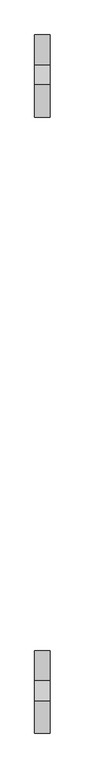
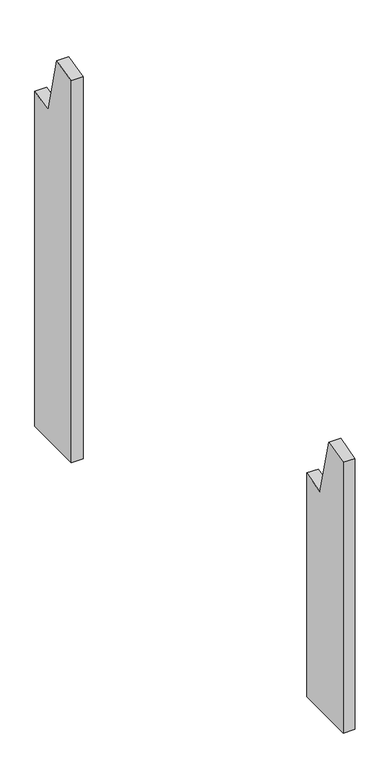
"""IFC4 building model written with IfcOpenShell, lengths in millimetres: proxy geometry, Modelos genéricos 49 : Modelos genéricos 5."""

import ifcopenshell
import ifcopenshell.guid

model = None  # the IFC model being written
_history = None  # IfcOwnerHistory: only IFC2X3 demands one
_inside = {}  # id of a spatial element -> (the spatial element, [elements in it])
_under = {}  # id of a project, library or spatial element -> (it, [spatial elements below it])
_declared = {}  # id of a project -> (the project, [libraries it declares])
_typed = {}  # id of a type object -> (the type object, [elements of that type])
_made_of = {}  # id of a material, layer set ... -> (it, [elements and type objects made of it])


def new_model(schema):
    """Start an empty IFC model of exactly this schema.

    Asked for "IFC4X3", IfcOpenShell would pick the latest addendum, in which some entities
    have other attributes; the version numbers below select the first issue.
    IFC2X3 requires an IfcOwnerHistory on every rooted entity: one is made here for all.
    """
    global model, _history
    if schema == "IFC4X3":
        model = ifcopenshell.file(schema_version=(4, 3, 0, 0))
    else:
        model = ifcopenshell.file(schema=schema)
    _inside.clear()
    _under.clear()
    _declared.clear()
    _typed.clear()
    _made_of.clear()
    _history = None
    if model.schema == "IFC2X3":
        org = make("IfcOrganization", Name="unknown")
        user = make(
            "IfcPersonAndOrganization",
            ThePerson=make("IfcPerson", FamilyName="unknown"),
            TheOrganization=org,
        )
        app = make(
            "IfcApplication",
            ApplicationDeveloper=org,
            Version="unknown",
            ApplicationFullName="unknown",
            ApplicationIdentifier="unknown",
        )
        _history = make(
            "IfcOwnerHistory",
            OwningUser=user,
            OwningApplication=app,
            ChangeAction="ADDED",
            CreationDate=0,
        )
    return model


def make(cls, **values):
    """One entity of the class cls with the attributes given. An attribute that is None is left unset."""
    return model.create_entity(
        cls, **{name: value for name, value in values.items() if value is not None}
    )


def rooted(cls, **values):
    """An entity with a GlobalId (a new one), such as an element, a storey or a relation."""
    return make(cls, GlobalId=ifcopenshell.guid.new(), OwnerHistory=_history, **values)


def si_unit(unit_type, name, prefix=None):
    """IfcSIUnit, for example si_unit("LENGTHUNIT", "METRE", prefix="MILLI")."""
    return make("IfcSIUnit", UnitType=unit_type, Prefix=prefix, Name=name)


def assignment(units):
    """IfcUnitAssignment: the units of a project."""
    return None if units is None else make("IfcUnitAssignment", Units=units)


def point(xyz):
    """IfcCartesianPoint."""
    return None if xyz is None else make("IfcCartesianPoint", Coordinates=xyz)


def direction(xyz):
    """IfcDirection."""
    return None if xyz is None else make("IfcDirection", DirectionRatios=xyz)


def frame(location, z_axis=None, x_axis=None):
    """IfcAxis2Placement3D, a coordinate frame: its origin and axes. An axis left out is left unset."""
    return make(
        "IfcAxis2Placement3D",
        Location=point(location),
        Axis=direction(z_axis),
        RefDirection=direction(x_axis),
    )


def origin():
    """The frame at (0, 0, 0) with its axes left unset."""
    return frame((0.0, 0.0, 0.0))


def place(relative_to, where):
    """IfcLocalPlacement: puts the frame where relative to a parent placement (None: the world)."""
    return make(
        "IfcLocalPlacement", PlacementRelTo=relative_to, RelativePlacement=where
    )


def context(
    kind, dimensions, precision=None, world=None, true_north=None, identifier=None
):
    """IfcGeometricRepresentationContext, for example the 3D "Model" context."""
    return make(
        "IfcGeometricRepresentationContext",
        ContextIdentifier=identifier,
        ContextType=kind,
        CoordinateSpaceDimension=dimensions,
        Precision=precision,
        WorldCoordinateSystem=world,
        TrueNorth=true_north,
    )


def project(units=None, contexts=None):
    """IfcProject with its units and contexts."""
    return rooted(
        "IfcProject",
        Name="project",
        RepresentationContexts=contexts,
        UnitsInContext=assignment(units),
    )


def spatial(cls, under=None, at=None, **own):
    """A site, building, storey or space (cls), placed at a placement, below another one or the project."""
    s = rooted(cls, ObjectPlacement=at, **own)
    if under is not None:
        _under.setdefault(under.id(), (under, []))[1].append(s)
    return s


def polyline(points):
    """IfcPolyline through the points."""
    return make("IfcPolyline", Points=[point(p) for p in points])


def outline(outer, holes=None, kind="AREA"):
    """IfcArbitraryClosedProfileDef: a profile drawn as a closed curve; with holes, ...WithVoids."""
    if holes is None:
        return make("IfcArbitraryClosedProfileDef", ProfileType=kind, OuterCurve=outer)
    return make(
        "IfcArbitraryProfileDefWithVoids",
        ProfileType=kind,
        OuterCurve=outer,
        InnerCurves=holes,
    )


def extrude(swept, where, along, depth):
    """IfcExtrudedAreaSolid: the profile swept, set in the frame where, extruded along a direction by depth."""
    return make(
        "IfcExtrudedAreaSolid",
        SweptArea=swept,
        Position=where,
        ExtrudedDirection=direction(along),
        Depth=depth,
    )


def shape(context_of_items, identifier, shape_type, items):
    """IfcShapeRepresentation: the items that make up one representation, for example the "Body"."""
    return make(
        "IfcShapeRepresentation",
        ContextOfItems=context_of_items,
        RepresentationIdentifier=identifier,
        RepresentationType=shape_type,
        Items=items,
    )


def source(mapping_origin, context_of_items, identifier, shape_type, items):
    """IfcRepresentationMap: a shape defined once, which mapped items show again and again."""
    return make(
        "IfcRepresentationMap",
        MappingOrigin=mapping_origin,
        MappedRepresentation=shape(context_of_items, identifier, shape_type, items),
    )


def transform(
    local_origin,
    x_axis=None,
    y_axis=None,
    z_axis=None,
    scale=None,
    scale2=None,
    scale3=None,
    uniform=True,
):
    """IfcCartesianTransformationOperator3D, or its non-uniform kind. x_axis, y_axis, z_axis: its Axis1, 2, 3."""
    if uniform:
        return make(
            "IfcCartesianTransformationOperator3D",
            Axis1=direction(x_axis),
            Axis2=direction(y_axis),
            LocalOrigin=point(local_origin),
            Scale=scale,
            Axis3=direction(z_axis),
        )
    return make(
        "IfcCartesianTransformationOperator3DnonUniform",
        Axis1=direction(x_axis),
        Axis2=direction(y_axis),
        LocalOrigin=point(local_origin),
        Scale=scale,
        Axis3=direction(z_axis),
        Scale2=scale2,
        Scale3=scale3,
    )


def mapped(mapping_source, mapping_target):
    """IfcMappedItem: shows the shape of a source again, moved by a transform."""
    return make(
        "IfcMappedItem", MappingSource=mapping_source, MappingTarget=mapping_target
    )


def made_of(thing, what):
    """Note that an element or type object is made of a material, layer set ...; save() writes the relation."""
    if what is not None:
        _made_of.setdefault(what.id(), (what, []))[1].append(thing)
    return thing


def element(
    cls,
    number,
    at=None,
    inside=None,
    cuts=None,
    type_object=None,
    material=None,
    context=None,
    identifier="Body",
    shape_type=None,
    held_by="IfcProductDefinitionShape",
    body=None,
    shapes=None,
    **own,
):
    """One element of the class cls, such as IfcWall. Its Tag is "e" and its number.

    at: its placement. inside: the storey or other place that contains it. cuts: it is an
    opening in that element (IfcRelVoidsElement). A single representation is given by context,
    identifier, shape_type and body (its items); several are given by shapes. held_by: the class
    of the entity that holds the representations. save() writes the other relations.
    """
    e = rooted(cls, Tag="e%d" % number, ObjectPlacement=at, **own)
    if body is not None:
        shapes = [shape(context, identifier, shape_type, body)]
    if shapes is not None:
        e.Representation = make(held_by, Representations=shapes)
    if inside is not None:
        _inside.setdefault(inside.id(), (inside, []))[1].append(e)
    if cuts is not None:
        rooted(
            "IfcRelVoidsElement", RelatingBuildingElement=cuts, RelatedOpeningElement=e
        )
    if type_object is not None:
        _typed.setdefault(type_object.id(), (type_object, []))[1].append(e)
    return made_of(e, material)


def aggregate(whole, parts):
    """IfcRelAggregates: a whole, such as a stair, and the parts it consists of."""
    return rooted("IfcRelAggregates", RelatingObject=whole, RelatedObjects=parts)


def save(model, path):
    """Write the relations noted so far, then the file.

    IfcRelAggregates (storeys below a building ...), IfcRelContainedInSpatialStructure (elements
    in a storey), IfcRelDefinesByType, IfcRelAssociatesMaterial and IfcRelDeclares: one each for
    every whole, place, type object, material and project.
    """
    for whole, parts in _under.values():
        aggregate(whole, parts)
    for where, things in _inside.values():
        rooted(
            "IfcRelContainedInSpatialStructure",
            RelatedElements=things,
            RelatingStructure=where,
        )
    for kind, things in _typed.values():
        rooted("IfcRelDefinesByType", RelatedObjects=things, RelatingType=kind)
    for what, things in _made_of.values():
        rooted("IfcRelAssociatesMaterial", RelatedObjects=things, RelatingMaterial=what)
    for by, libraries in _declared.values():
        rooted("IfcRelDeclares", RelatingContext=by, RelatedDefinitions=libraries)
    model.write(path)


def generic_models_7920858f(model_context):
    return source(origin(), model_context, "Body", "SweptSolid", [
        extrude(outline(polyline([(628.6238165, 3000.0), (468.6238165, 3000.0), (468.6238165, 4023.0972283), (531.6985696, 4038.8235305), (570.4060729, 3883.5762143), (628.6238165, 3898.0915281), (628.6238165, 3000.0)])), frame((-5316.5527533, 0.0, 0.0), z_axis=(1.0, 0.0, 0.0), x_axis=(0.0, 1.0, 0.0)), (0.0, 0.0, 1.0), 30.0),
        extrude(outline(polyline([(-566.3761835, 3000.0), (-726.3761835, 3000.0), (-726.3761835, 3725.1502649), (-663.3014304, 3740.8765671), (-624.5939271, 3585.6292509), (-566.3761835, 3600.1445647), (-566.3761835, 3000.0)])), frame((-5316.5527533, 0.0, 0.0), z_axis=(1.0, 0.0, 0.0), x_axis=(0.0, 1.0, 0.0)), (0.0, 0.0, 1.0), 30.0),
    ])


if __name__ == "__main__":
    model = new_model("IFC4")
    model_context = context("Model", 3, world=origin())
    ifc_project = project(units=[si_unit("LENGTHUNIT", "METRE", prefix="MILLI")], contexts=[model_context])
    site = spatial("IfcSite", under=ifc_project)
    building = spatial("IfcBuilding", under=site)
    placement = place(None, origin())
    generic_models_shape = generic_models_7920858f(model_context)
    element("IfcBuildingElementProxy", 1, Name="Modelos genéricos 49 : Modelos genéricos 5", ObjectType="Modelos genéricos 49 : Modelos genéricos 5", at=placement, inside=building, context=model_context, shape_type="MappedRepresentation", body=[
        mapped(generic_models_shape, transform((0.0, 0.0, 0.0), x_axis=(1.0, 0.0, 0.0), y_axis=(0.0, 1.0, 0.0), z_axis=(0.0, 0.0, 1.0))),
    ])
    save(model, "model.ifc")
